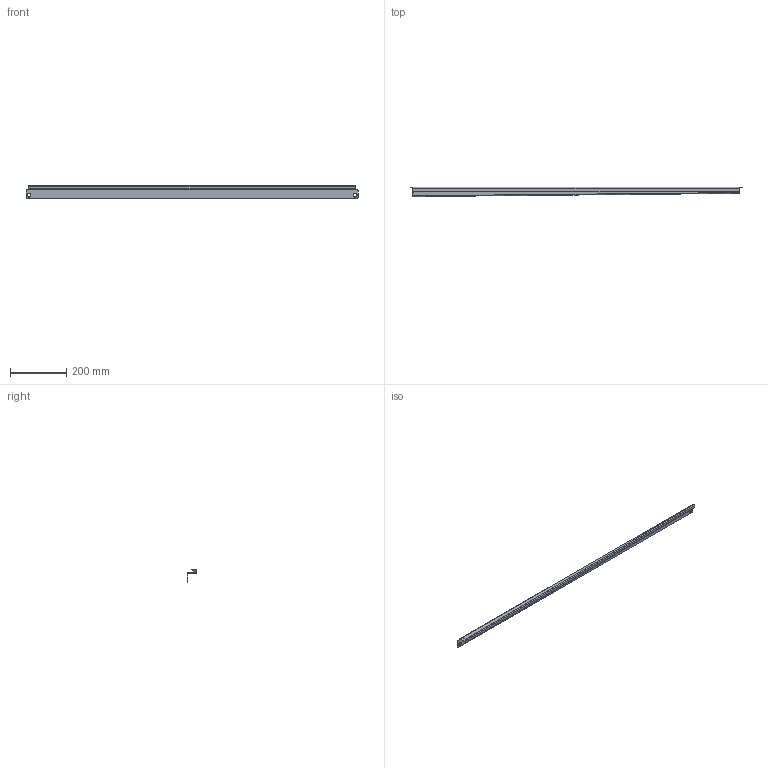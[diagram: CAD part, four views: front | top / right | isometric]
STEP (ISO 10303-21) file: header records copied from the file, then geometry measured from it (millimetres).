
FILE_DESCRIPTION (( 'STEP AP203' ), '1' );
FILE_NAME ('p2ads12.STEP', '2016-06-10T13:19:00', ( '' ), ( '' ), 'SwSTEP 2.0', 'SolidWorks 2014', '' );
FILE_SCHEMA (( 'CONFIG_CONTROL_DESIGN' ));
Length unit declared in the file: millimetre
Products named in the file (2): 89137541; p2ads12
Assembly tree (1 placements, depth 2):
  p2ads12
    89137541
Bounding box: 1178.99 x 32.89 x 46.08 mm (x, y, z)
Volume: 130343.7 mm3; surface area: 190227.6 mm2
Topology: 1 solids, 1 shells, 43 faces, 99 edges, 58 vertices
Faces by surface type: plane 22, cylinder 17, bspline 4
Entity records: 1483 total; most frequent: CARTESIAN_POINT 336, DIRECTION 203, ORIENTED_EDGE 198, EDGE_CURVE 99, AXIS2_PLACEMENT_3D 69, LINE 65, VECTOR 65, VERTEX_POINT 58
